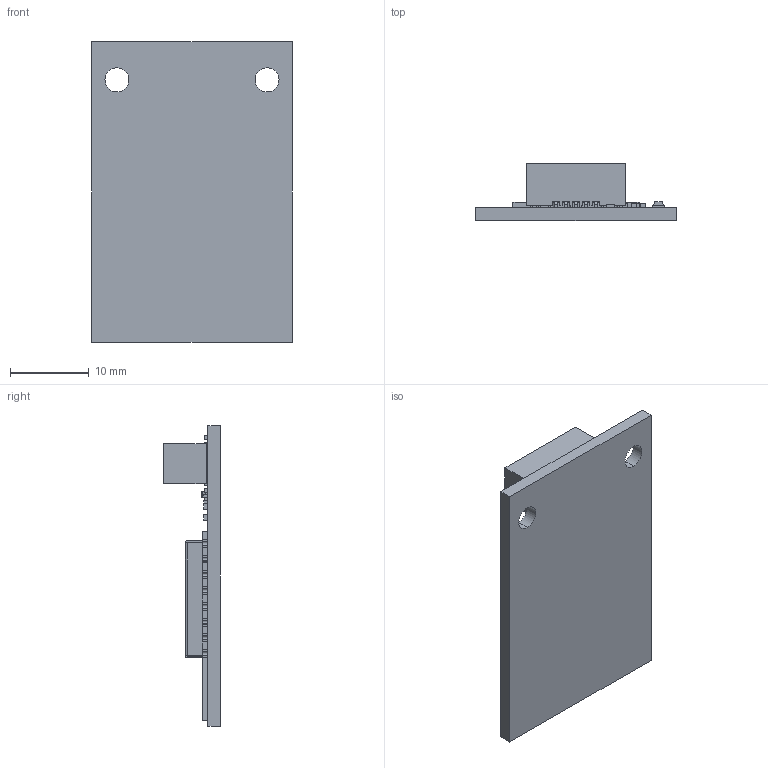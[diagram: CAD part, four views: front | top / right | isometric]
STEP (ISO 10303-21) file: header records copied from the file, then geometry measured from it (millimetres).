
FILE_DESCRIPTION (( 'STEP AP214' ), '1' );
FILE_NAME ('Gadgeteer_Wifi_Module_16-877073.STEP', '2017-08-16T18:54:14', ( 'ART' ), ( 'Microsoft' ), 'SwSTEP 2.0', 'SolidWorks 2015', '' );
FILE_SCHEMA (( 'AUTOMOTIVE_DESIGN' ));
Length unit declared in the file: inch
Products named in the file (1): Gadgeteer_Wifi_Module_16-877073
Bounding box: 25.4 x 7.21 x 38.1 mm (x, y, z)
Surface area: 4915.6 mm2 (no closed solid volume)
Topology: 0 solids, 107 shells, 1451 faces, 3508 edges, 2336 vertices
Faces by surface type: plane 1227, cylinder 224
Entity records: 61968 total; most frequent: CARTESIAN_POINT 7296, ORIENTED_EDGE 6988, DIRECTION 6880, EDGE_CURVE 3508, VECTOR 3040, LINE 3040, VERTEX_POINT 2336, AXIS2_PLACEMENT_3D 1920
